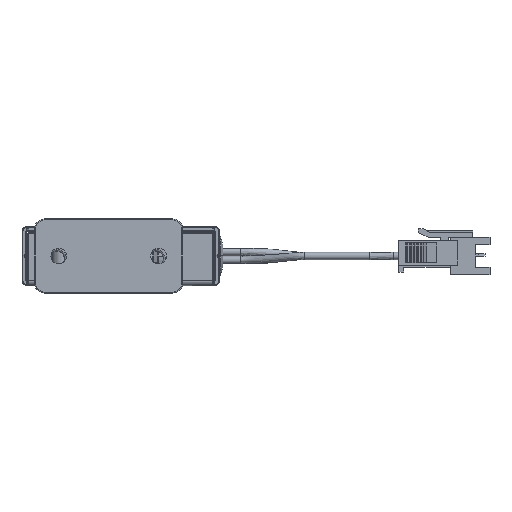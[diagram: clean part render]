
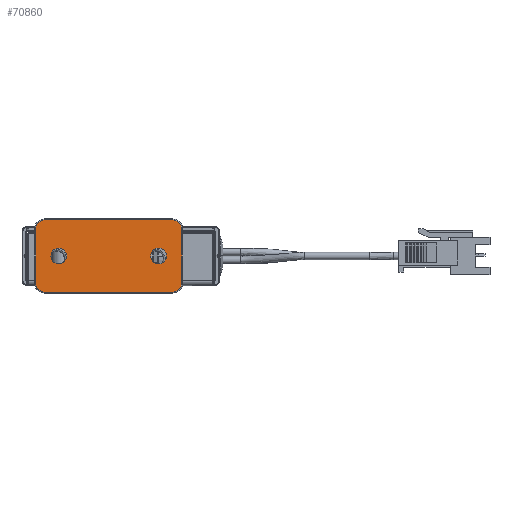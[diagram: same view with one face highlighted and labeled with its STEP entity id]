
A CAD part, left-side view. The second image highlights one B-rep face of the part: STEP entity #70860.
In plain terms, the highlighted planar face has unit normal (-1, 0, 0) as drawn and (0, -1, 0) by its records, which use the part's own axes.
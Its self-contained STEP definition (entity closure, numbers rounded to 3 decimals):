
#70117=CARTESIAN_POINT('',(0.,0.,-10.1));
#70118=DIRECTION('',(0.,1.,0.));
#70119=DIRECTION('',(-1.,0.,0.));
#70120=AXIS2_PLACEMENT_3D('',#70117,#70118,#70119);
#70122=CARTESIAN_POINT('',(0.,0.,-10.1));
#70123=DIRECTION('',(0.,1.,0.));
#70124=DIRECTION('',(1.,0.,0.));
#70125=AXIS2_PLACEMENT_3D('',#70122,#70123,#70124);
#70127=CARTESIAN_POINT('',(0.,0.,10.1));
#70128=DIRECTION('',(0.,1.,0.));
#70129=DIRECTION('',(-1.,0.,0.));
#70130=AXIS2_PLACEMENT_3D('',#70127,#70128,#70129);
#70132=CARTESIAN_POINT('',(0.,0.,10.1));
#70133=DIRECTION('',(0.,1.,0.));
#70134=DIRECTION('',(1.,0.,0.));
#70135=AXIS2_PLACEMENT_3D('',#70132,#70133,#70134);
#70137=CARTESIAN_POINT('',(5.5,0.,-13.));
#70138=DIRECTION('',(0.,-1.,0.));
#70139=DIRECTION('',(0.,0.,-1.));
#70140=AXIS2_PLACEMENT_3D('',#70137,#70138,#70139);
#70142=DIRECTION('',(1.,0.,0.));
#70143=VECTOR('',#70142,11.);
#70144=CARTESIAN_POINT('',(-5.5,0.,-14.8));
#70145=LINE('',#70144,#70143);
#70146=CARTESIAN_POINT('',(-5.5,0.,-13.));
#70147=DIRECTION('',(0.,-1.,0.));
#70148=DIRECTION('',(-1.,0.,0.));
#70149=AXIS2_PLACEMENT_3D('',#70146,#70147,#70148);
#70151=DIRECTION('',(0.,0.,-1.));
#70152=VECTOR('',#70151,26.);
#70153=CARTESIAN_POINT('',(-7.3,0.,13.));
#70154=LINE('',#70153,#70152);
#70155=CARTESIAN_POINT('',(-5.5,0.,13.));
#70156=DIRECTION('',(0.,-1.,0.));
#70157=DIRECTION('',(0.,0.,1.));
#70158=AXIS2_PLACEMENT_3D('',#70155,#70156,#70157);
#70160=DIRECTION('',(-1.,0.,0.));
#70161=VECTOR('',#70160,11.);
#70162=CARTESIAN_POINT('',(5.5,0.,14.8));
#70163=LINE('',#70162,#70161);
#70164=CARTESIAN_POINT('',(5.5,0.,13.));
#70165=DIRECTION('',(0.,-1.,0.));
#70166=DIRECTION('',(1.,0.,0.));
#70167=AXIS2_PLACEMENT_3D('',#70164,#70165,#70166);
#70169=DIRECTION('',(0.,0.,1.));
#70170=VECTOR('',#70169,26.);
#70171=CARTESIAN_POINT('',(7.3,0.,-13.));
#70172=LINE('',#70171,#70170);
#70705=CARTESIAN_POINT('',(-1.6,0.,-10.1));
#70706=CARTESIAN_POINT('',(1.6,0.,-10.1));
#70707=VERTEX_POINT('',#70705);
#70708=VERTEX_POINT('',#70706);
#70709=CARTESIAN_POINT('',(-1.6,0.,10.1));
#70710=CARTESIAN_POINT('',(1.6,0.,10.1));
#70711=VERTEX_POINT('',#70709);
#70712=VERTEX_POINT('',#70710);
#70745=CARTESIAN_POINT('',(5.5,0.,-14.8));
#70746=CARTESIAN_POINT('',(7.3,0.,-13.));
#70747=VERTEX_POINT('',#70745);
#70748=VERTEX_POINT('',#70746);
#70753=CARTESIAN_POINT('',(7.3,0.,13.));
#70754=VERTEX_POINT('',#70753);
#70757=CARTESIAN_POINT('',(5.5,0.,14.8));
#70758=VERTEX_POINT('',#70757);
#70761=CARTESIAN_POINT('',(-5.5,0.,14.8));
#70762=VERTEX_POINT('',#70761);
#70765=CARTESIAN_POINT('',(-7.3,0.,13.));
#70766=VERTEX_POINT('',#70765);
#70769=CARTESIAN_POINT('',(-7.3,0.,-13.));
#70770=VERTEX_POINT('',#70769);
#70773=CARTESIAN_POINT('',(-5.5,0.,-14.8));
#70774=VERTEX_POINT('',#70773);
#70825=CARTESIAN_POINT('',(0.,0.,0.));
#70826=DIRECTION('',(0.,1.,0.));
#70827=DIRECTION('',(1.,0.,0.));
#70828=AXIS2_PLACEMENT_3D('',#70825,#70826,#70827);
#70829=PLANE('',#70828);
#70831=ORIENTED_EDGE('',*,*,#70830,.F.);
#70833=ORIENTED_EDGE('',*,*,#70832,.F.);
#70835=ORIENTED_EDGE('',*,*,#70834,.F.);
#70837=ORIENTED_EDGE('',*,*,#70836,.F.);
#70839=ORIENTED_EDGE('',*,*,#70838,.F.);
#70841=ORIENTED_EDGE('',*,*,#70840,.F.);
#70843=ORIENTED_EDGE('',*,*,#70842,.F.);
#70845=ORIENTED_EDGE('',*,*,#70844,.F.);
#70846=EDGE_LOOP('',(#70831,#70833,#70835,#70837,#70839,#70841,#70843,#70845));
#70847=FACE_OUTER_BOUND('',#70846,.F.);
#70849=ORIENTED_EDGE('',*,*,#70848,.F.);
#70851=ORIENTED_EDGE('',*,*,#70850,.F.);
#70852=EDGE_LOOP('',(#70849,#70851));
#70853=FACE_BOUND('',#70852,.F.);
#70855=ORIENTED_EDGE('',*,*,#70854,.F.);
#70857=ORIENTED_EDGE('',*,*,#70856,.F.);
#70858=EDGE_LOOP('',(#70855,#70857));
#70859=FACE_BOUND('',#70858,.F.);
#70860=ADVANCED_FACE('',(#70847,#70853,#70859),#70829,.F.);
#70121=CIRCLE('',#70120,1.6);
#70126=CIRCLE('',#70125,1.6);
#70131=CIRCLE('',#70130,1.6);
#70136=CIRCLE('',#70135,1.6);
#70141=CIRCLE('',#70140,1.8);
#70150=CIRCLE('',#70149,1.8);
#70159=CIRCLE('',#70158,1.8);
#70168=CIRCLE('',#70167,1.8);
#70830=EDGE_CURVE('',#70747,#70748,#70141,.T.);
#70832=EDGE_CURVE('',#70774,#70747,#70145,.T.);
#70834=EDGE_CURVE('',#70770,#70774,#70150,.T.);
#70836=EDGE_CURVE('',#70766,#70770,#70154,.T.);
#70838=EDGE_CURVE('',#70762,#70766,#70159,.T.);
#70840=EDGE_CURVE('',#70758,#70762,#70163,.T.);
#70842=EDGE_CURVE('',#70754,#70758,#70168,.T.);
#70844=EDGE_CURVE('',#70748,#70754,#70172,.T.);
#70848=EDGE_CURVE('',#70711,#70712,#70131,.T.);
#70850=EDGE_CURVE('',#70712,#70711,#70136,.T.);
#70854=EDGE_CURVE('',#70707,#70708,#70121,.T.);
#70856=EDGE_CURVE('',#70708,#70707,#70126,.T.);
